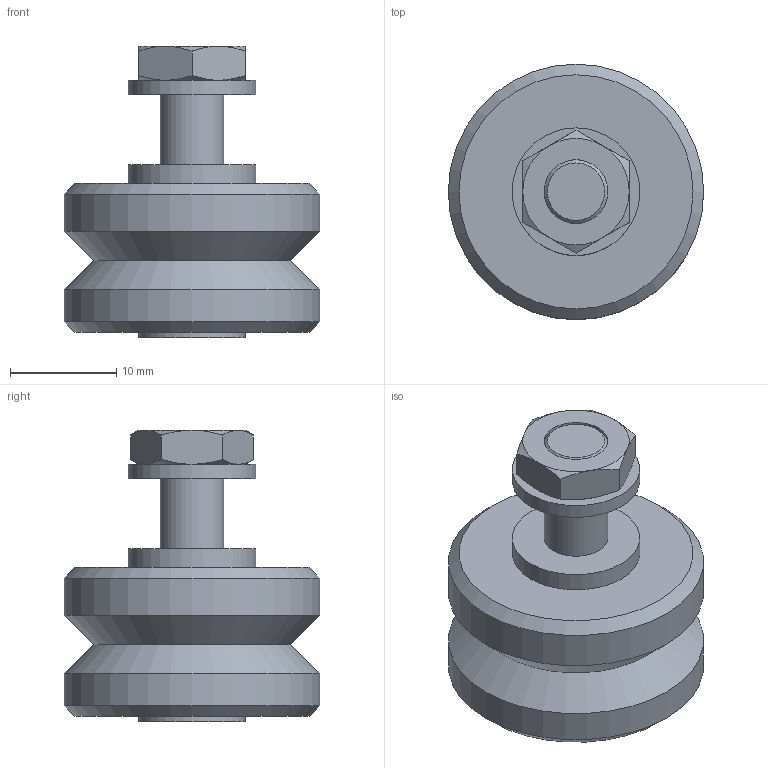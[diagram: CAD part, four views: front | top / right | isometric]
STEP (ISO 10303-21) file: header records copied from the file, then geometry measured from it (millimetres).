
FILE_DESCRIPTION((''),'2;1');
FILE_NAME('D:\製品 (図面)\カタログ用3D\リニアガイド関連\STEP形式\VR\VR6(E).stp','2010-06-02T17:11:22',('Tsuchiya'),(''),'Autodesk Inventor 10','Autodesk Inventor 10','');
FILE_SCHEMA(('AUTOMOTIVE_DESIGN { 1 0 10303 214 1 1 1 1 }'));
Length unit declared in the file: millimetre
Products named in the file (1): VR6(E)
Bounding box: 24 x 24 x 27.4 mm (x, y, z)
Volume: 6570.3 mm3; surface area: 2582.5 mm2
Topology: 1 solids, 1 shells, 40 faces, 77 edges, 46 vertices
Faces by surface type: cone 17, plane 15, cylinder 8
Full cylindrical faces by diameter (mm): 6 x2, 7 x1, 10 x1, 12 x2, 24 x2
Entity records: 921 total; most frequent: CARTESIAN_POINT 195, DIRECTION 152, ORIENTED_EDGE 124, AXIS2_PLACEMENT_3D 73, EDGE_CURVE 62, EDGE_LOOP 60, VERTEX_POINT 44, FACE_OUTER_BOUND 40
